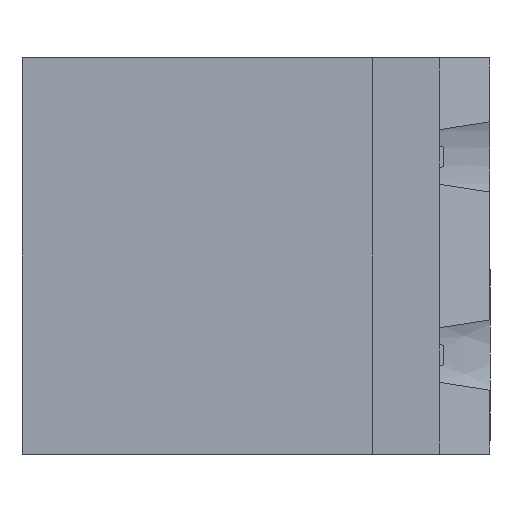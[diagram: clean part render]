
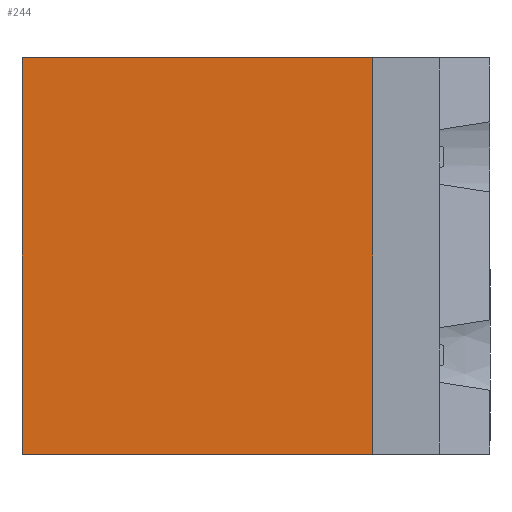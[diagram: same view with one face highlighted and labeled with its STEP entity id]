
A CAD part, left-side view. The second image highlights one B-rep face of the part: STEP entity #244.
In plain terms, the highlighted planar face has unit normal (-1, 0, 0).
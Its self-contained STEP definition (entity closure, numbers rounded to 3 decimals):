
#218 = VERTEX_POINT('',#219);
#219 = CARTESIAN_POINT('',(-3.9,3.,0.));
#227 = VERTEX_POINT('',#228);
#228 = CARTESIAN_POINT('',(-3.9,3.,10.16));
#234 = EDGE_CURVE('',#227,#218,#235,.T.);
#235 = LINE('',#236,#237);
#236 = CARTESIAN_POINT('',(-3.9,3.,10.16));
#237 = VECTOR('',#238,1.);
#238 = DIRECTION('',(0.,0.,-1.));
#244 = ADVANCED_FACE('',(#245),#270,.T.);
#245 = FACE_BOUND('',#246,.T.);
#246 = EDGE_LOOP('',(#247,#255,#256,#264));
#247 = ORIENTED_EDGE('',*,*,#248,.T.);
#248 = EDGE_CURVE('',#249,#218,#251,.T.);
#249 = VERTEX_POINT('',#250);
#250 = CARTESIAN_POINT('',(-3.9,12.,0.));
#251 = LINE('',#252,#253);
#252 = CARTESIAN_POINT('',(-3.9,12.,0.));
#253 = VECTOR('',#254,1.);
#254 = DIRECTION('',(0.,-1.,0.));
#255 = ORIENTED_EDGE('',*,*,#234,.F.);
#256 = ORIENTED_EDGE('',*,*,#257,.F.);
#257 = EDGE_CURVE('',#258,#227,#260,.T.);
#258 = VERTEX_POINT('',#259);
#259 = CARTESIAN_POINT('',(-3.9,12.,10.16));
#260 = LINE('',#261,#262);
#261 = CARTESIAN_POINT('',(-3.9,12.,10.16));
#262 = VECTOR('',#263,1.);
#263 = DIRECTION('',(0.,-1.,0.));
#264 = ORIENTED_EDGE('',*,*,#265,.F.);
#265 = EDGE_CURVE('',#249,#258,#266,.T.);
#266 = LINE('',#267,#268);
#267 = CARTESIAN_POINT('',(-3.9,12.,0.));
#268 = VECTOR('',#269,1.);
#269 = DIRECTION('',(0.,0.,1.));
#270 = PLANE('',#271);
#271 = AXIS2_PLACEMENT_3D('',#272,#273,#274);
#272 = CARTESIAN_POINT('',(-3.9,12.,0.));
#273 = DIRECTION('',(-1.,0.,0.));
#274 = DIRECTION('',(0.,0.,1.));
